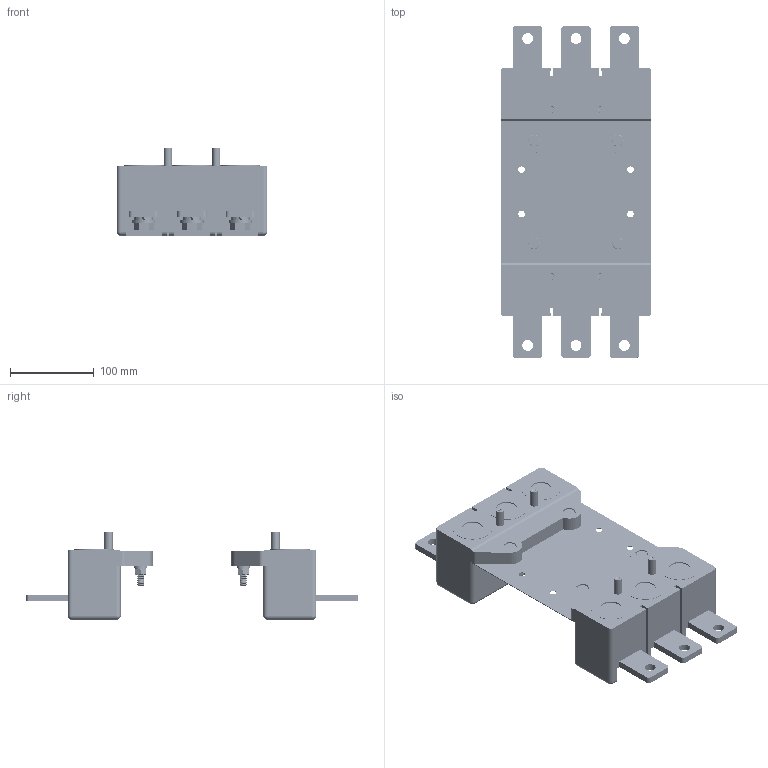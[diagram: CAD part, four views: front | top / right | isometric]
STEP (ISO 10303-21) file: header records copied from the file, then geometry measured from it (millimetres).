
FILE_DESCRIPTION (( 'STEP AP214' ), '1' );
FILE_NAME ('TGM1NE-630-3p(big size)ãîòîâîå óæå ñîâìåùåííîå Îñíîâàíèå âòû÷íîå.STEP', '2025-12-12T08:40:37', ( '' ), ( '' ), 'SwSTEP 2.0', 'SolidWorks 2024', '' );
FILE_SCHEMA (( 'AUTOMOTIVE_DESIGN' ));
Length unit declared in the file: millimetre
Products named in the file (5): Part195; TGM1NE-630-3p(big size)2 Основание втычное; 底座_1_4.stp; TGM1NE-630-3p(big size)готовое уже совмещенное  Основание втычное; TGM1NE-630-3p(big size) Основание втычное.stp
Assembly tree (5 placements, depth 4):
  TGM1NE-630-3p(big size)готовое уже совмещенное  Основание втычное
    TGM1NE-630-3p(big size) Основание втычное.stp
      底座_1_4.stp
    Part195
    TGM1NE-630-3p(big size)2 Основание втычное
      TGM1NE-630-3p(big size) Основание втычное.stp
        底座_1_4.stp
Bounding box: 180.5 x 397.6 x 105 mm (x, y, z)
Volume: 1924767.5 mm3; surface area: 322229.5 mm2
Topology: 3 solids, 87 shells, 3694 faces, 8196 edges, 4598 vertices
Faces by surface type: cone 2062, cylinder 1064, plane 560, sphere 8
Entity records: 51939 total; most frequent: CARTESIAN_POINT 9856, DIRECTION 9659, ORIENTED_EDGE 8248, EDGE_CURVE 4124, AXIS2_PLACEMENT_3D 3812, VERTEX_POINT 2319, LINE 2035, VECTOR 2035
